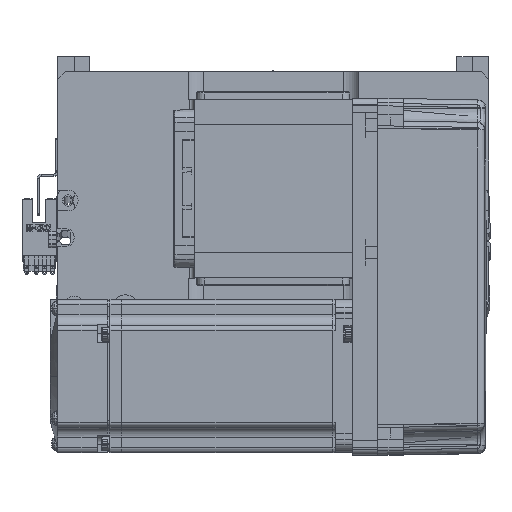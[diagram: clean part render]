
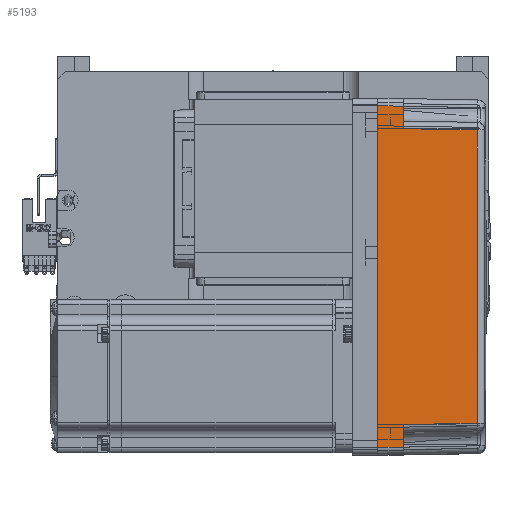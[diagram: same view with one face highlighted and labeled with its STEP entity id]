
A CAD part, top view. The second image highlights one B-rep face of the part: STEP entity #5193.
In plain terms, the highlighted planar face has unit normal (0.018, 0, 1) as drawn and (0, 1, 0.017) by its records, which use the part's own axes.
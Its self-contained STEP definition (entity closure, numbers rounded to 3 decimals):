
#66 = VERTEX_POINT ( 'NONE', #36038 ) ;
#1563 = VERTEX_POINT ( 'NONE', #9177 ) ;
#3305 = DIRECTION ( 'NONE',  ( 0.017, -0.017, 1. ) ) ;
#5193 = ADVANCED_FACE ( 'NONE', ( #18417 ), #12187, .T. ) ;
#5313 = ORIENTED_EDGE ( 'NONE', *, *, #23836, .T. ) ;
#6423 = LINE ( 'NONE', #38502, #56964 ) ;
#7759 = CARTESIAN_POINT ( 'NONE',  ( 70., 36., 0. ) ) ;
#8890 = EDGE_CURVE ( 'NONE', #66, #49704, #64384, .T. ) ;
#9177 = CARTESIAN_POINT ( 'NONE',  ( 57.495, 35.32, 38.985 ) ) ;
#11539 = ORIENTED_EDGE ( 'NONE', *, *, #16337, .T. ) ;
#12187 = PLANE ( 'NONE',  #34354 ) ;
#13756 = LINE ( 'NONE', #61324, #48519 ) ;
#14266 = VECTOR ( 'NONE', #14640, 1000. ) ;
#14640 = DIRECTION ( 'NONE',  ( 0.017, -0.017, 1. ) ) ;
#16337 = EDGE_CURVE ( 'NONE', #49704, #23179, #6423, .T. ) ;
#17312 = DIRECTION ( 'NONE',  ( 0., 1., 0.017 ) ) ;
#18075 = VECTOR ( 'NONE', #50885, 1000. ) ;
#18417 = FACE_OUTER_BOUND ( 'NONE', #42220, .T. ) ;
#20387 = VECTOR ( 'NONE', #49088, 1000. ) ;
#21004 = DIRECTION ( 'NONE',  ( 1., 0., 0. ) ) ;
#21905 = VECTOR ( 'NONE', #38530, 1000. ) ;
#23179 = VERTEX_POINT ( 'NONE', #38165 ) ;
#23377 = VECTOR ( 'NONE', #41102, 1000. ) ;
#23434 = EDGE_CURVE ( 'NONE', #24896, #58095, #32971, .T. ) ;
#23836 = EDGE_CURVE ( 'NONE', #1563, #45545, #62873, .T. ) ;
#24896 = VERTEX_POINT ( 'NONE', #28068 ) ;
#27182 = EDGE_CURVE ( 'NONE', #45545, #30858, #13756, .T. ) ;
#27404 = CARTESIAN_POINT ( 'NONE',  ( -19.165, 35.316, 39.181 ) ) ;
#28068 = CARTESIAN_POINT ( 'NONE',  ( -67., 36., 0. ) ) ;
#29846 = ORIENTED_EDGE ( 'NONE', *, *, #8890, .T. ) ;
#30117 = CARTESIAN_POINT ( 'NONE',  ( 67., 36., 0. ) ) ;
#30638 = CARTESIAN_POINT ( 'NONE',  ( 67.001, 36.001, -0.052 ) ) ;
#30858 = VERTEX_POINT ( 'NONE', #39812 ) ;
#32847 = CARTESIAN_POINT ( 'NONE',  ( -58., 35.825, 10. ) ) ;
#32971 = LINE ( 'NONE', #58605, #20387 ) ;
#34354 = AXIS2_PLACEMENT_3D ( 'NONE', #7759, #17312, #37686 ) ;
#34355 = EDGE_CURVE ( 'NONE', #24896, #66, #42751, .T. ) ;
#34382 = ORIENTED_EDGE ( 'NONE', *, *, #35570, .F. ) ;
#35570 = EDGE_CURVE ( 'NONE', #58095, #30858, #64662, .T. ) ;
#36038 = CARTESIAN_POINT ( 'NONE',  ( -66.826, 35.825, 10. ) ) ;
#37686 = DIRECTION ( 'NONE',  ( 0., -0.017, 1. ) ) ;
#38165 = CARTESIAN_POINT ( 'NONE',  ( -57.495, 35.32, 38.985 ) ) ;
#38502 = CARTESIAN_POINT ( 'NONE',  ( -58., 35.825, 10. ) ) ;
#38530 = DIRECTION ( 'NONE',  ( 0.017, 0.017, -1. ) ) ;
#38949 = CARTESIAN_POINT ( 'NONE',  ( 57.495, 35.32, 38.985 ) ) ;
#39812 = CARTESIAN_POINT ( 'NONE',  ( 66.826, 35.825, 10. ) ) ;
#41102 = DIRECTION ( 'NONE',  ( 1., 0., 0. ) ) ;
#42220 = EDGE_LOOP ( 'NONE', ( #56640, #29846, #11539, #43921, #5313, #51411, #34382, #60593 ) ) ;
#42228 = CARTESIAN_POINT ( 'NONE',  ( 19.165, 35.316, 39.181 ) ) ;
#42751 = LINE ( 'NONE', #45353, #14266 ) ;
#43921 = ORIENTED_EDGE ( 'NONE', *, *, #62758, .T. ) ;
#45353 = CARTESIAN_POINT ( 'NONE',  ( -67., 36., 0. ) ) ;
#45545 = VERTEX_POINT ( 'NONE', #55709 ) ;
#47671 = CARTESIAN_POINT ( 'NONE',  ( 57.495, 35.32, 38.985 ) ) ;
#48229 = B_SPLINE_CURVE_WITH_KNOTS ( 'NONE', 3,
 ( #52130, #27404, #42228, #47671 ),
 .UNSPECIFIED., .F., .F.,
 ( 4, 4 ),
 ( 0., 1. ),
 .UNSPECIFIED. ) ;
#48519 = VECTOR ( 'NONE', #21004, 1000. ) ;
#49088 = DIRECTION ( 'NONE',  ( 1., 0., 0. ) ) ;
#49704 = VERTEX_POINT ( 'NONE', #32847 ) ;
#50544 = CARTESIAN_POINT ( 'NONE',  ( 70., 35.825, 10. ) ) ;
#50885 = DIRECTION ( 'NONE',  ( -0.017, -0.017, 1. ) ) ;
#51411 = ORIENTED_EDGE ( 'NONE', *, *, #27182, .T. ) ;
#52130 = CARTESIAN_POINT ( 'NONE',  ( -57.495, 35.32, 38.985 ) ) ;
#55709 = CARTESIAN_POINT ( 'NONE',  ( 58., 35.825, 10. ) ) ;
#56640 = ORIENTED_EDGE ( 'NONE', *, *, #34355, .T. ) ;
#56964 = VECTOR ( 'NONE', #3305, 1000. ) ;
#58095 = VERTEX_POINT ( 'NONE', #30117 ) ;
#58605 = CARTESIAN_POINT ( 'NONE',  ( 0., 36., 0. ) ) ;
#60593 = ORIENTED_EDGE ( 'NONE', *, *, #23434, .F. ) ;
#61324 = CARTESIAN_POINT ( 'NONE',  ( 70., 35.825, 10. ) ) ;
#62758 = EDGE_CURVE ( 'NONE', #23179, #1563, #48229, .T. ) ;
#62873 = LINE ( 'NONE', #38949, #21905 ) ;
#64384 = LINE ( 'NONE', #50544, #23377 ) ;
#64662 = LINE ( 'NONE', #30638, #18075 ) ;
